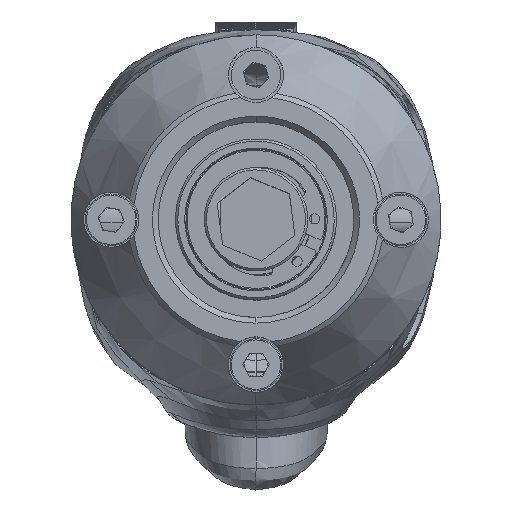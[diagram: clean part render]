
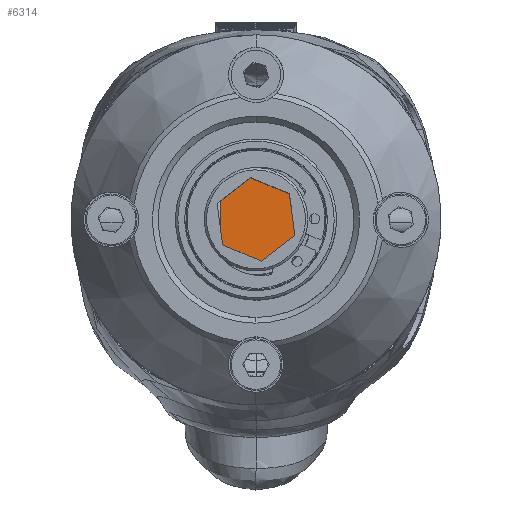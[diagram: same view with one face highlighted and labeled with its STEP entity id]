
A CAD part, top view. The second image highlights one B-rep face of the part: STEP entity #6314.
In plain terms, the highlighted planar face has unit normal (0, 0, -1).
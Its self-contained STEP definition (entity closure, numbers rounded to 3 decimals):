
#1768 = ORIENTED_EDGE ( 'NONE', *, *, #31497, .T. ) ;
#1907 = CARTESIAN_POINT ( 'NONE',  ( 3.643, -4.743, -168.208 ) ) ;
#3079 = CARTESIAN_POINT ( 'NONE',  ( -5.93, 0., -168.208 ) ) ;
#5367 = CARTESIAN_POINT ( 'NONE',  ( 3.643, 4.743, -168.208 ) ) ;
#5954 = CARTESIAN_POINT ( 'NONE',  ( -3.643, 4.743, -168.208 ) ) ;
#6314 = ADVANCED_FACE ( 'NONE', ( #36647 ), #72324, .T. ) ;
#6530 = CARTESIAN_POINT ( 'NONE',  ( -0.778, 5.93, -168.208 ) ) ;
#12591 = CARTESIAN_POINT ( 'NONE',  ( -2.988, -5.181, -168.208 ) ) ;
#14310 = CARTESIAN_POINT ( 'NONE',  ( -5.181, 2.988, -168.208 ) ) ;
#19153 = CARTESIAN_POINT ( 'NONE',  ( -4.743, -3.643, -168.208 ) ) ;
#19742 = CARTESIAN_POINT ( 'NONE',  ( -3.643, -4.743, -168.208 ) ) ;
#23228 = CARTESIAN_POINT ( 'NONE',  ( 5.74, 1.539, -168.208 ) ) ;
#23824 = CARTESIAN_POINT ( 'NONE',  ( -5.776, 1.551, -168.208 ) ) ;
#25983 = DIRECTION ( 'NONE',  ( 0., -1., 0. ) ) ;
#30052 = CARTESIAN_POINT ( 'NONE',  ( -5.93, 0., -168.208 ) ) ;
#31497 = EDGE_CURVE ( 'NONE', #68614, #97009, #54557, .T. ) ;
#33325 = CARTESIAN_POINT ( 'NONE',  ( 5.93, 0.39, -168.208 ) ) ;
#34904 = CARTESIAN_POINT ( 'NONE',  ( 0., 0., -168.208 ) ) ;
#36647 = FACE_OUTER_BOUND ( 'NONE', #41308, .T. ) ;
#39351 = CARTESIAN_POINT ( 'NONE',  ( -5.627, -1.91, -168.208 ) ) ;
#41308 = EDGE_LOOP ( 'NONE', ( #1768, #108774 ) ) ;
#41646 = CARTESIAN_POINT ( 'NONE',  ( 5.93, 0., -168.208 ) ) ;
#42236 = CARTESIAN_POINT ( 'NONE',  ( -5.93, 0., -168.208 ) ) ;
#42824 = CARTESIAN_POINT ( 'NONE',  ( 0.778, 5.93, -168.208 ) ) ;
#50565 = CARTESIAN_POINT ( 'NONE',  ( 5.892, 0.775, -168.208 ) ) ;
#52110 = CARTESIAN_POINT ( 'NONE',  ( 5.93, 0., -168.208 ) ) ;
#52882 = CARTESIAN_POINT ( 'NONE',  ( -2.988, 5.181, -168.208 ) ) ;
#54557 = B_SPLINE_CURVE_WITH_KNOTS ( 'NONE', 3,
 ( #72084, #108345, #63168, #99429, #90515, #1907, #112455, #93455, #83348, #111870, #92869, #12591, #19742, #19153, #111286, #39351, #85119, #65521, #84541, #3079 ),
 .UNSPECIFIED., .F., .F.,
 ( 4, 2, 2, 2, 2, 2, 2, 2, 2, 4 ),
 ( 0., 0.125, 0.25, 0.375, 0.5, 0.625, 0.75, 0.875, 0.938, 1. ),
 .UNSPECIFIED. ) ;
#55652 = EDGE_CURVE ( 'NONE', #97009, #68614, #98296, .T. ) ;
#60083 = CARTESIAN_POINT ( 'NONE',  ( 5.628, 1.91, -168.208 ) ) ;
#61227 = CARTESIAN_POINT ( 'NONE',  ( 5.181, 2.988, -168.208 ) ) ;
#63168 = CARTESIAN_POINT ( 'NONE',  ( 5.776, -1.551, -168.208 ) ) ;
#65521 = CARTESIAN_POINT ( 'NONE',  ( -5.892, -0.775, -168.208 ) ) ;
#68614 = VERTEX_POINT ( 'NONE', #52110 ) ;
#68995 = CARTESIAN_POINT ( 'NONE',  ( 1.551, 5.776, -168.208 ) ) ;
#69374 = AXIS2_PLACEMENT_3D ( 'NONE', #34904, #107416, #25983 ) ;
#70164 = CARTESIAN_POINT ( 'NONE',  ( -4.743, 3.643, -168.208 ) ) ;
#72084 = CARTESIAN_POINT ( 'NONE',  ( 5.93, 0., -168.208 ) ) ;
#72324 = PLANE ( 'NONE',  #69374 ) ;
#83348 = CARTESIAN_POINT ( 'NONE',  ( 0.778, -5.93, -168.208 ) ) ;
#84541 = CARTESIAN_POINT ( 'NONE',  ( -5.93, -0.39, -168.208 ) ) ;
#85119 = CARTESIAN_POINT ( 'NONE',  ( -5.74, -1.539, -168.208 ) ) ;
#88575 = CARTESIAN_POINT ( 'NONE',  ( -1.55, 5.776, -168.208 ) ) ;
#90515 = CARTESIAN_POINT ( 'NONE',  ( 4.743, -3.643, -168.208 ) ) ;
#92869 = CARTESIAN_POINT ( 'NONE',  ( -1.55, -5.776, -168.208 ) ) ;
#93455 = CARTESIAN_POINT ( 'NONE',  ( 1.551, -5.776, -168.208 ) ) ;
#96336 = CARTESIAN_POINT ( 'NONE',  ( 2.988, 5.181, -168.208 ) ) ;
#97009 = VERTEX_POINT ( 'NONE', #30052 ) ;
#98296 = B_SPLINE_CURVE_WITH_KNOTS ( 'NONE', 3,
 ( #42236, #105235, #23824, #14310, #70164, #5954, #52882, #88575, #6530, #42824, #68995, #96336, #5367, #106403, #61227, #60083, #23228, #50565, #33325, #41646 ),
 .UNSPECIFIED., .F., .F.,
 ( 4, 2, 2, 2, 2, 2, 2, 2, 2, 4 ),
 ( 0., 0.125, 0.25, 0.375, 0.5, 0.625, 0.75, 0.875, 0.938, 1. ),
 .UNSPECIFIED. ) ;
#99429 = CARTESIAN_POINT ( 'NONE',  ( 5.181, -2.988, -168.208 ) ) ;
#105235 = CARTESIAN_POINT ( 'NONE',  ( -5.93, 0.778, -168.208 ) ) ;
#106403 = CARTESIAN_POINT ( 'NONE',  ( 4.743, 3.643, -168.208 ) ) ;
#107416 = DIRECTION ( 'NONE',  ( 0., 0., -1. ) ) ;
#108345 = CARTESIAN_POINT ( 'NONE',  ( 5.93, -0.778, -168.208 ) ) ;
#108774 = ORIENTED_EDGE ( 'NONE', *, *, #55652, .T. ) ;
#111286 = CARTESIAN_POINT ( 'NONE',  ( -5.181, -2.988, -168.208 ) ) ;
#111870 = CARTESIAN_POINT ( 'NONE',  ( -0.778, -5.93, -168.208 ) ) ;
#112455 = CARTESIAN_POINT ( 'NONE',  ( 2.988, -5.181, -168.208 ) ) ;
